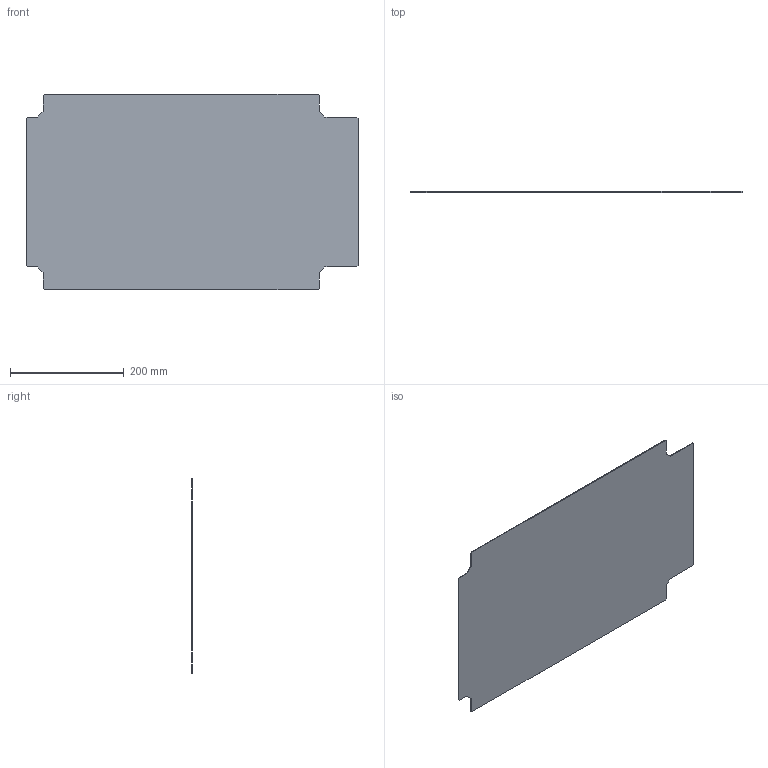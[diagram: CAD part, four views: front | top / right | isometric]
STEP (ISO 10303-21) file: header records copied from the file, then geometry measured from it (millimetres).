
FILE_DESCRIPTION(('CAx-IF Rec.Pracs.---Model Styling and Organization---1.2---2011-12-15','CAx-IF Rec.Pracs.---Geometric and Assembly Validation Properties---4.1---2014-06-16','CAx-IF Rec.Pracs.---PMI Polyline Presentation---2.0---2013-05-24'),'2;1');
FILE_NAME('R5SBC64.stp','2021-05-06T02:30:48+03:00',(''),(''),'STEP Interface 4.4 by CT CoreTechnologie','3D_Evolution4.4 by CT CoreTechnologie','');
FILE_SCHEMA(('AUTOMOTIVE_DESIGN { 1 0 10303 214 1 1 1 1 }'));
Length unit declared in the file: millimetre
Products named in the file (2): R5SBC64; RB.0504.00.00.0_-02
Assembly tree (1 placements, depth 2):
  R5SBC64
    RB.0504.00.00.0_-02
Bounding box: 583 x 1.5 x 343 mm (x, y, z)
Surface area: 387354.8 mm2 (no closed solid volume)
Topology: 0 solids, 1 shells, 26 faces, 72 edges, 48 vertices
Faces by surface type: plane 26
Entity records: 889 total; most frequent: CARTESIAN_POINT 148, ORIENTED_EDGE 144, DIRECTION 128, VECTOR 72, LINE 72, EDGE_CURVE 72, VERTEX_POINT 48, AXIS2_PLACEMENT_3D 28
